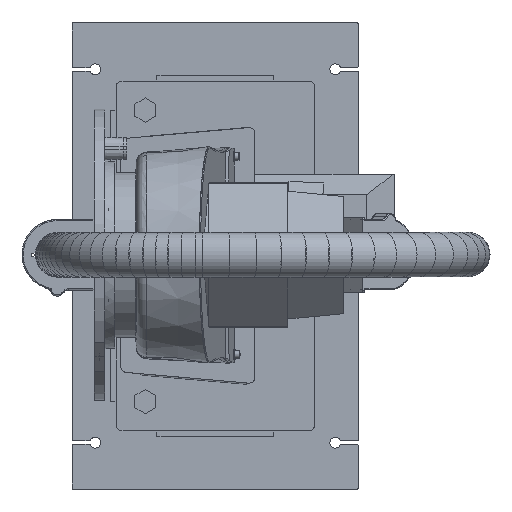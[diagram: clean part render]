
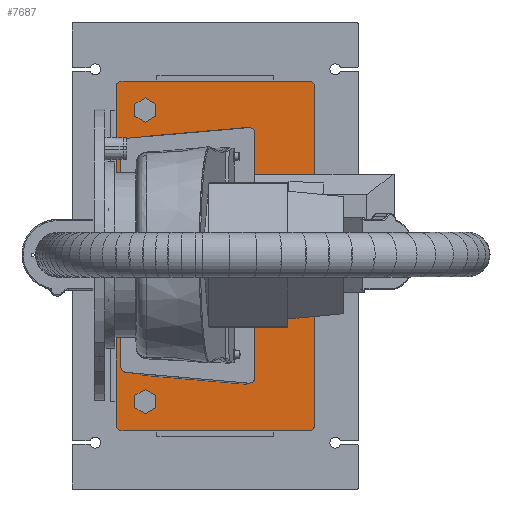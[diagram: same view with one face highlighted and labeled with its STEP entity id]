
A CAD part, top view. The second image highlights one B-rep face of the part: STEP entity #7687.
In plain terms, the highlighted planar face has unit normal (0, 0, 1).
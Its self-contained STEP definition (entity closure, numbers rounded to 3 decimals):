
#4501=B_SPLINE_CURVE_WITH_KNOTS('',3,(#26979,#26980,#26981,#26982,#26983,
#26984),.UNSPECIFIED.,.F.,.F.,(4,2,4),(0.,0.5,1.),.UNSPECIFIED.);
#4502=B_SPLINE_CURVE_WITH_KNOTS('',3,(#26986,#26987,#26988,#26989),
 .UNSPECIFIED.,.F.,.F.,(4,4),(0.,1.),.UNSPECIFIED.);
#4503=B_SPLINE_CURVE_WITH_KNOTS('',3,(#26993,#26994,#26995,#26996),
 .UNSPECIFIED.,.F.,.F.,(4,4),(0.,1.),.UNSPECIFIED.);
#4504=B_SPLINE_CURVE_WITH_KNOTS('',3,(#26998,#26999,#27000,#27001,#27002,
#27003),.UNSPECIFIED.,.F.,.F.,(4,2,4),(0.,0.5,1.),.UNSPECIFIED.);
#4849=LINE('',#26970,#5707);
#4850=LINE('',#26973,#5708);
#4851=LINE('',#26975,#5709);
#4852=LINE('',#26977,#5710);
#4853=LINE('',#26991,#5711);
#4854=LINE('',#27005,#5712);
#4855=LINE('',#27007,#5713);
#4856=LINE('',#27009,#5714);
#4857=LINE('',#27010,#5715);
#4858=LINE('',#27015,#5716);
#4859=LINE('',#27019,#5717);
#4860=LINE('',#27023,#5718);
#5707=VECTOR('',#20112,1.);
#5708=VECTOR('',#20113,1.);
#5709=VECTOR('',#20114,1.);
#5710=VECTOR('',#20115,1.);
#5711=VECTOR('',#20116,1.);
#5712=VECTOR('',#20117,1.);
#5713=VECTOR('',#20118,1.);
#5714=VECTOR('',#20119,1.);
#5715=VECTOR('',#20120,1.);
#5716=VECTOR('',#20123,1.);
#5717=VECTOR('',#20126,1.);
#5718=VECTOR('',#20129,1.);
#6401=PLANE('',#17933);
#7687=ADVANCED_FACE('',(#8522,#8523,#8524,#8525,#8526),#6401,.F.);
#8522=FACE_BOUND('',#9352,.T.);
#8523=FACE_BOUND('',#9353,.T.);
#8524=FACE_BOUND('',#9354,.T.);
#8525=FACE_BOUND('',#9355,.T.);
#8526=FACE_BOUND('',#9356,.T.);
#9352=EDGE_LOOP('',(#11349,#11350,#11351,#11352,#11353,#11354,#11355,#11356,
#11357,#11358,#11359,#11360));
#9353=EDGE_LOOP('',(#11361,#11362,#11363,#11364,#11365,#11366,#11367,#11368));
#9354=EDGE_LOOP('',(#11369));
#9355=EDGE_LOOP('',(#11370));
#9356=EDGE_LOOP('',(#11371));
#11349=ORIENTED_EDGE('',*,*,#15655,.T.);
#11350=ORIENTED_EDGE('',*,*,#15656,.F.);
#11351=ORIENTED_EDGE('',*,*,#15657,.F.);
#11352=ORIENTED_EDGE('',*,*,#15658,.F.);
#11353=ORIENTED_EDGE('',*,*,#15659,.F.);
#11354=ORIENTED_EDGE('',*,*,#15660,.F.);
#11355=ORIENTED_EDGE('',*,*,#15661,.T.);
#11356=ORIENTED_EDGE('',*,*,#15662,.F.);
#11357=ORIENTED_EDGE('',*,*,#15663,.F.);
#11358=ORIENTED_EDGE('',*,*,#15664,.F.);
#11359=ORIENTED_EDGE('',*,*,#15665,.T.);
#11360=ORIENTED_EDGE('',*,*,#15666,.T.);
#11361=ORIENTED_EDGE('',*,*,#15667,.F.);
#11362=ORIENTED_EDGE('',*,*,#15668,.T.);
#11363=ORIENTED_EDGE('',*,*,#15669,.F.);
#11364=ORIENTED_EDGE('',*,*,#15670,.T.);
#11365=ORIENTED_EDGE('',*,*,#15671,.F.);
#11366=ORIENTED_EDGE('',*,*,#15672,.T.);
#11367=ORIENTED_EDGE('',*,*,#15673,.F.);
#11368=ORIENTED_EDGE('',*,*,#15674,.T.);
#11369=ORIENTED_EDGE('',*,*,#15675,.T.);
#11370=ORIENTED_EDGE('',*,*,#15676,.T.);
#11371=ORIENTED_EDGE('',*,*,#15677,.T.);
#14208=VERTEX_POINT('',#26971);
#14209=VERTEX_POINT('',#26972);
#14210=VERTEX_POINT('',#26974);
#14211=VERTEX_POINT('',#26976);
#14212=VERTEX_POINT('',#26978);
#14213=VERTEX_POINT('',#26985);
#14214=VERTEX_POINT('',#26990);
#14215=VERTEX_POINT('',#26992);
#14216=VERTEX_POINT('',#26997);
#14217=VERTEX_POINT('',#27004);
#14218=VERTEX_POINT('',#27006);
#14219=VERTEX_POINT('',#27008);
#14220=VERTEX_POINT('',#27011);
#14221=VERTEX_POINT('',#27012);
#14222=VERTEX_POINT('',#27014);
#14223=VERTEX_POINT('',#27016);
#14224=VERTEX_POINT('',#27018);
#14225=VERTEX_POINT('',#27020);
#14226=VERTEX_POINT('',#27022);
#14227=VERTEX_POINT('',#27024);
#14228=VERTEX_POINT('',#27027);
#14229=VERTEX_POINT('',#27029);
#14230=VERTEX_POINT('',#27031);
#15655=EDGE_CURVE('',#14208,#14209,#4849,.T.);
#15656=EDGE_CURVE('',#14210,#14209,#4850,.T.);
#15657=EDGE_CURVE('',#14211,#14210,#4851,.T.);
#15658=EDGE_CURVE('',#14212,#14211,#4852,.T.);
#15659=EDGE_CURVE('',#14213,#14212,#4501,.T.);
#15660=EDGE_CURVE('',#14214,#14213,#4502,.T.);
#15661=EDGE_CURVE('',#14214,#14215,#4853,.T.);
#15662=EDGE_CURVE('',#14216,#14215,#4503,.T.);
#15663=EDGE_CURVE('',#14217,#14216,#4504,.T.);
#15664=EDGE_CURVE('',#14218,#14217,#4854,.T.);
#15665=EDGE_CURVE('',#14218,#14219,#4855,.T.);
#15666=EDGE_CURVE('',#14219,#14208,#4856,.T.);
#15667=EDGE_CURVE('',#14220,#14221,#4857,.T.);
#15668=EDGE_CURVE('',#14220,#14222,#17026,.T.);
#15669=EDGE_CURVE('',#14223,#14222,#4858,.T.);
#15670=EDGE_CURVE('',#14223,#14224,#17027,.T.);
#15671=EDGE_CURVE('',#14225,#14224,#4859,.T.);
#15672=EDGE_CURVE('',#14225,#14226,#17028,.T.);
#15673=EDGE_CURVE('',#14227,#14226,#4860,.T.);
#15674=EDGE_CURVE('',#14227,#14221,#17029,.T.);
#15675=EDGE_CURVE('',#14228,#14228,#17030,.T.);
#15676=EDGE_CURVE('',#14229,#14229,#17031,.T.);
#15677=EDGE_CURVE('',#14230,#14230,#17032,.T.);
#17026=CIRCLE('',#17926,10.);
#17027=CIRCLE('',#17927,10.);
#17028=CIRCLE('',#17928,10.);
#17029=CIRCLE('',#17929,10.);
#17030=CIRCLE('',#17930,10.5);
#17031=CIRCLE('',#17931,10.5);
#17032=CIRCLE('',#17932,10.5);
#17926=AXIS2_PLACEMENT_3D('',#27013,#20121,#20122);
#17927=AXIS2_PLACEMENT_3D('',#27017,#20124,#20125);
#17928=AXIS2_PLACEMENT_3D('',#27021,#20127,#20128);
#17929=AXIS2_PLACEMENT_3D('',#27025,#20130,#20131);
#17930=AXIS2_PLACEMENT_3D('',#27026,#20132,#20133);
#17931=AXIS2_PLACEMENT_3D('',#27028,#20134,#20135);
#17932=AXIS2_PLACEMENT_3D('',#27030,#20136,#20137);
#17933=AXIS2_PLACEMENT_3D('',#27032,#20138,#20139);
#20112=DIRECTION('',(0.,-1.,0.));
#20113=DIRECTION('',(-0.996,0.087,0.));
#20114=DIRECTION('',(0.087,0.996,0.));
#20115=DIRECTION('',(0.996,-0.087,0.));
#20116=DIRECTION('',(0.,1.,0.));
#20117=DIRECTION('',(-0.996,-0.087,0.));
#20118=DIRECTION('',(0.088,-0.996,0.));
#20119=DIRECTION('',(-0.996,-0.087,0.));
#20120=DIRECTION('',(0.,1.,0.));
#20121=DIRECTION('',(0.,0.,1.));
#20122=DIRECTION('',(0.,1.,0.));
#20123=DIRECTION('',(-1.,0.,0.));
#20124=DIRECTION('',(0.,0.,1.));
#20125=DIRECTION('',(0.,1.,0.));
#20126=DIRECTION('',(0.,-1.,0.));
#20127=DIRECTION('',(0.,0.,1.));
#20128=DIRECTION('',(0.,1.,0.));
#20129=DIRECTION('',(1.,0.,0.));
#20130=DIRECTION('',(0.,0.,1.));
#20131=DIRECTION('',(0.,1.,0.));
#20132=DIRECTION('',(0.,0.,-1.));
#20133=DIRECTION('',(-1.,0.,0.));
#20134=DIRECTION('',(0.,0.,-1.));
#20135=DIRECTION('',(-1.,0.,0.));
#20136=DIRECTION('',(0.,0.,-1.));
#20137=DIRECTION('',(-1.,0.,0.));
#20138=DIRECTION('',(0.,0.,-1.));
#20139=DIRECTION('',(0.,1.,0.));
#26970=CARTESIAN_POINT('',(7.8,213.,20.));
#26971=CARTESIAN_POINT('',(7.8,213.669,20.));
#26972=CARTESIAN_POINT('',(7.8,-213.669,20.));
#26973=CARTESIAN_POINT('',(136.575,-224.951,20.));
#26974=CARTESIAN_POINT('',(14.285,-214.237,20.));
#26975=CARTESIAN_POINT('',(7.71,-289.286,20.));
#26976=CARTESIAN_POINT('',(13.95,-218.058,20.));
#26977=CARTESIAN_POINT('',(136.24,-228.772,20.));
#26978=CARTESIAN_POINT('',(-161.877,-202.655,20.));
#26979=CARTESIAN_POINT('',(-179.064,-195.512,20.));
#26980=CARTESIAN_POINT('',(-176.485,-197.311,20.));
#26981=CARTESIAN_POINT('',(-173.831,-198.969,20.));
#26982=CARTESIAN_POINT('',(-168.094,-201.48,20.));
#26983=CARTESIAN_POINT('',(-165.016,-202.335,20.));
#26984=CARTESIAN_POINT('',(-161.877,-202.655,20.));
#26985=CARTESIAN_POINT('',(-179.064,-195.512,20.));
#26986=CARTESIAN_POINT('',(-185.,-178.952,20.));
#26987=CARTESIAN_POINT('',(-185.,-184.948,20.));
#26988=CARTESIAN_POINT('',(-182.875,-190.882,20.));
#26989=CARTESIAN_POINT('',(-179.064,-195.512,20.));
#26990=CARTESIAN_POINT('',(-185.,-178.952,20.));
#26991=CARTESIAN_POINT('',(-185.,-151.018,20.));
#26992=CARTESIAN_POINT('',(-185.,178.952,20.));
#26993=CARTESIAN_POINT('',(-179.064,195.491,20.));
#26994=CARTESIAN_POINT('',(-182.873,190.868,20.));
#26995=CARTESIAN_POINT('',(-185.,184.942,20.));
#26996=CARTESIAN_POINT('',(-185.,178.952,20.));
#26997=CARTESIAN_POINT('',(-179.064,195.491,20.));
#26998=CARTESIAN_POINT('',(-161.877,202.634,20.));
#26999=CARTESIAN_POINT('',(-165.016,202.314,20.));
#27000=CARTESIAN_POINT('',(-168.012,201.487,20.));
#27001=CARTESIAN_POINT('',(-173.766,198.985,20.));
#27002=CARTESIAN_POINT('',(-176.472,197.299,20.));
#27003=CARTESIAN_POINT('',(-179.064,195.491,20.));
#27004=CARTESIAN_POINT('',(-161.877,202.634,20.));
#27005=CARTESIAN_POINT('',(84.077,224.181,20.));
#27006=CARTESIAN_POINT('',(13.95,218.038,20.));
#27007=CARTESIAN_POINT('',(60.125,-306.155,20.));
#27008=CARTESIAN_POINT('',(14.285,214.237,20.));
#27009=CARTESIAN_POINT('',(-179.266,197.28,20.));
#27010=CARTESIAN_POINT('',(-210.,-300.,20.));
#27011=CARTESIAN_POINT('',(-210.,-290.,20.));
#27012=CARTESIAN_POINT('',(-210.,290.,20.));
#27013=CARTESIAN_POINT('',(-200.,-290.,20.));
#27014=CARTESIAN_POINT('',(-200.,-300.,20.));
#27015=CARTESIAN_POINT('',(130.,-300.,20.));
#27016=CARTESIAN_POINT('',(120.,-300.,20.));
#27017=CARTESIAN_POINT('',(120.,-290.,20.));
#27018=CARTESIAN_POINT('',(130.,-290.,20.));
#27019=CARTESIAN_POINT('',(130.,300.,20.));
#27020=CARTESIAN_POINT('',(130.,290.,20.));
#27021=CARTESIAN_POINT('',(120.,290.,20.));
#27022=CARTESIAN_POINT('',(120.,300.,20.));
#27023=CARTESIAN_POINT('',(-210.,300.,20.));
#27024=CARTESIAN_POINT('',(-200.,300.,20.));
#27025=CARTESIAN_POINT('',(-200.,290.,20.));
#27026=CARTESIAN_POINT('',(-160.,-250.,20.));
#27027=CARTESIAN_POINT('',(-170.5,-250.,20.));
#27028=CARTESIAN_POINT('',(-160.,250.,20.));
#27029=CARTESIAN_POINT('',(-170.5,250.,20.));
#27030=CARTESIAN_POINT('',(80.,0.,20.));
#27031=CARTESIAN_POINT('',(69.5,0.,20.));
#27032=CARTESIAN_POINT('',(130.,-300.,20.));
